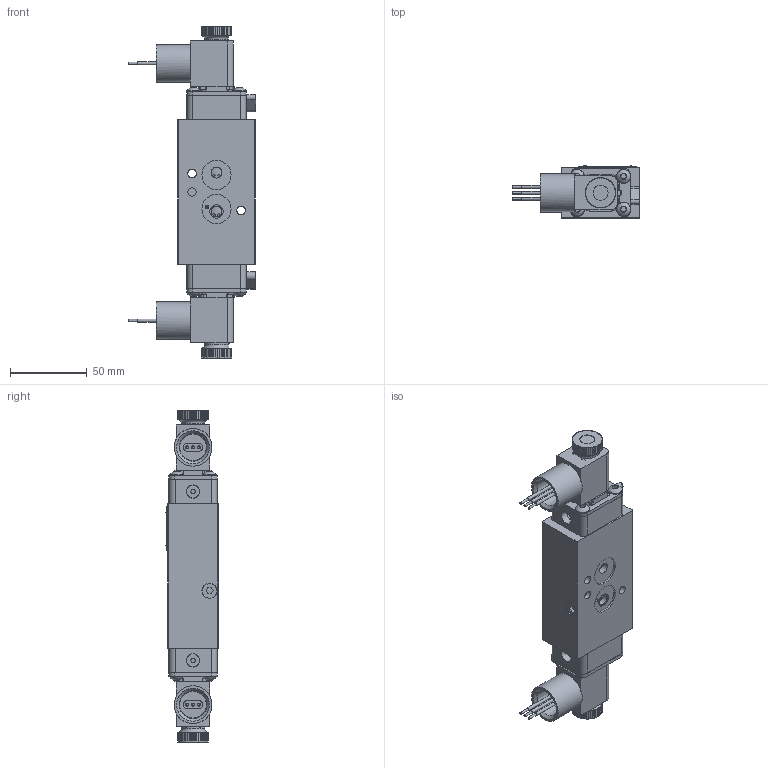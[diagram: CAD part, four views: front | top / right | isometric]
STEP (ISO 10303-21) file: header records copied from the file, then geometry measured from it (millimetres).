
FILE_DESCRIPTION(/* description */ (''),/* implementation_level */ '2;1');
FILE_NAME(/* name */ 'NSS2JOLZ.stp',/* time_stamp */ '2026-09-30T07:08:04-04:00',/* author */ ('rmckenna'),/* organization */ (''),/* preprocessor_version */ 'ST-DEVELOPER v20.2',/* originating_system */ 'Autodesk Inventor 2027',/* authorisation */ '');
FILE_SCHEMA (('AUTOMOTIVE_DESIGN { 1 0 10303 214 3 1 1 }'));
Products named in the file (1): Part29
Bounding box: 83.55 x 34.06 x 216.87 mm (x, y, z)
Volume: 219848.2 mm3; surface area: 83936.1 mm2
Topology: 3 solids, 26 shells, 2311 faces, 5847 edges, 3751 vertices
Faces by surface type: plane 1151, cylinder 659, cone 238, torus 145, bspline 108, sphere 10
Full cylindrical faces by diameter (mm): 1.3 x2, 1.397 x2, 1.5 x2, 1.524 x6, 2.032 x14, 2.07 x2, 2.261 x2, 2.35 x8, 2.388 x2, 2.5 x2, 2.778 x2, 2.8 x2, 3 x8, 3.048 x1, 3.175 x1, 3.4 x2, 3.683 x10, 4.191 x4, 4.826 x8, 5.15 x8, 5.156 x8, 5.5 x2, 5.512 x1, 5.556 x2, 6.65 x2, 6.731 x1, 7.087 x1, 7.137 x3, 7.144 x4, 7.315 x2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
Entity records: 76293 total; most frequent: CARTESIAN_POINT 18119, ORIENTED_EDGE 11662, DIRECTION 11522, EDGE_CURVE 5831, AXIS2_PLACEMENT_3D 4225, VERTEX_POINT 3749, LINE 3072, VECTOR 3072
